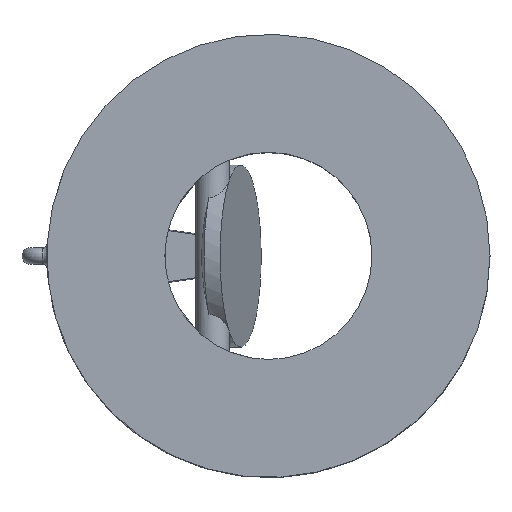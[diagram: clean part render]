
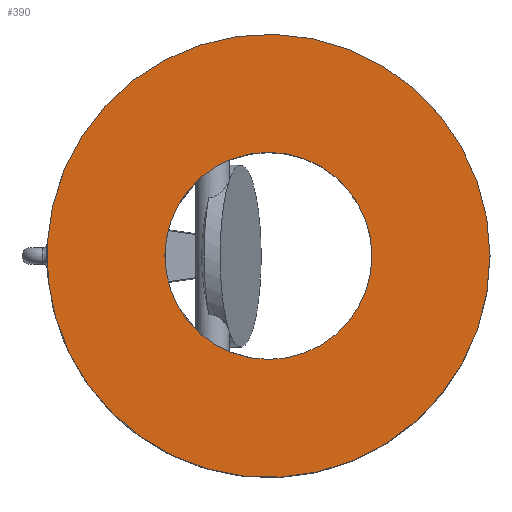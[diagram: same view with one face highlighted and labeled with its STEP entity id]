
A CAD part, top view. The second image highlights one B-rep face of the part: STEP entity #390.
In plain terms, the highlighted planar face has unit normal (0, 0, 1).
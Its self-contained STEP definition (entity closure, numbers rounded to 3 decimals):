
#390 = ADVANCED_FACE( '', ( #939, #940 ), #941, .F. );
#939 = FACE_OUTER_BOUND( '', #2906, .T. );
#940 = FACE_BOUND( '', #2907, .T. );
#941 = PLANE( '', #2908 );
#2906 = EDGE_LOOP( '', ( #9157 ) );
#2907 = EDGE_LOOP( '', ( #9158 ) );
#2908 = AXIS2_PLACEMENT_3D( '', #9159, #9160, #9161 );
#9157 = ORIENTED_EDGE( '', *, *, #10688, .F. );
#9158 = ORIENTED_EDGE( '', *, *, #10700, .F. );
#9159 = CARTESIAN_POINT( '', ( 0., 0., 21.5 ) );
#9160 = DIRECTION( '', ( 0., 0., -1. ) );
#9161 = DIRECTION( '', ( -1., 0., 0. ) );
#10688 = EDGE_CURVE( '', #11662, #11662, #11663, .T. );
#10700 = EDGE_CURVE( '', #11679, #11679, #11680, .T. );
#11662 = VERTEX_POINT( '', #14989 );
#11663 = CIRCLE( '', #14990, 53.5 );
#11679 = VERTEX_POINT( '', #15138 );
#11680 = CIRCLE( '', #15139, 25. );
#14989 = CARTESIAN_POINT( '', ( 53.5, 0., 21.5 ) );
#14990 = AXIS2_PLACEMENT_3D( '', #19472, #19473, #19474 );
#15138 = CARTESIAN_POINT( '', ( 0., -25., 21.5 ) );
#15139 = AXIS2_PLACEMENT_3D( '', #19475, #19476, #19477 );
#19472 = CARTESIAN_POINT( '', ( 0., 0., 21.5 ) );
#19473 = DIRECTION( '', ( 0., 0., -1. ) );
#19474 = DIRECTION( '', ( 1., 0., 0. ) );
#19475 = CARTESIAN_POINT( '', ( 0., 0., 21.5 ) );
#19476 = DIRECTION( '', ( 0., 0., 1. ) );
#19477 = DIRECTION( '', ( 0., -1., 0. ) );
